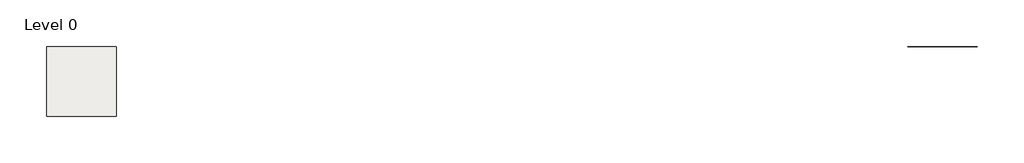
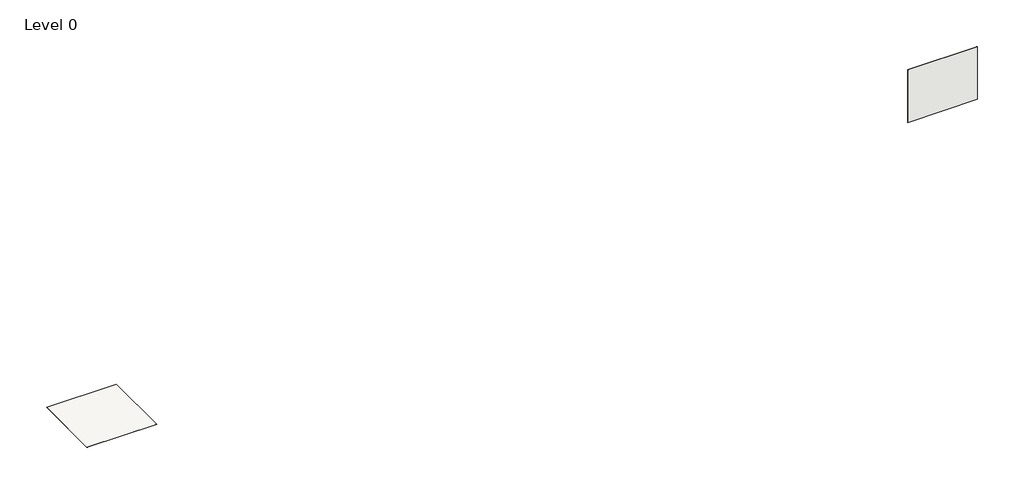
# One storey: 2 coverings.
"""IFC4 building model written with IfcOpenShell, lengths in millimetres."""

from ifc_helpers import new_model, si_unit, frame, origin, origin_with_axes, place, context, project, spatial, polyline, outline, extrude, element, save

model = new_model("IFC4")

# Units and contexts
model_context = context("Model", 3, world=origin())
ifc_project = project(units=[si_unit("LENGTHUNIT", "METRE", prefix="MILLI")], contexts=[model_context])

# Site, building, storey
site = spatial("IfcSite", under=ifc_project)
building = spatial("IfcBuilding", under=site)
storey = spatial("IfcBuildingStorey", under=building, Name="Level 0", Elevation=0.0)

# Coverings
placement = place(None, origin())
element("IfcCovering", 1, ObjectType="NBS_DeltaMembranes_PlasticsSheets_MemtechM1", at=placement, inside=storey, context=model_context, shape_type="SweptSolid", body=[
    extrude(outline(polyline([(0.0, -8300.0), (0.0, -5800.0), (2500.0, -5800.0), (2500.0, -8300.0), (0.0, -8300.0)])), frame((0.0, 0.0, -2.0), z_axis=(0.0, 0.0, 1.0), x_axis=(1.0, 0.0, 0.0)), (0.0, 0.0, 1.0), 2.0),
])
element("IfcCovering", 2, ObjectType="NBS_DeltaMembranes_PlasticsSheets_MemtechM1", at=placement, inside=storey, context=model_context, shape_type="SweptSolid", body=[
    extrude(outline(polyline([(30800.0, -5800.0), (33300.0, -5800.0), (33300.0, -5802.0), (30800.0, -5802.0), (30800.0, -5800.0)])), origin_with_axes(), (0.0, 0.0, 1.0), 2000.0),
])

save(model, "model.ifc")
